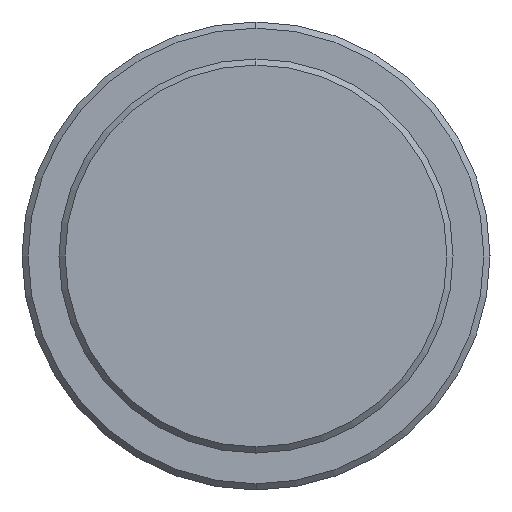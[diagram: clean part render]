
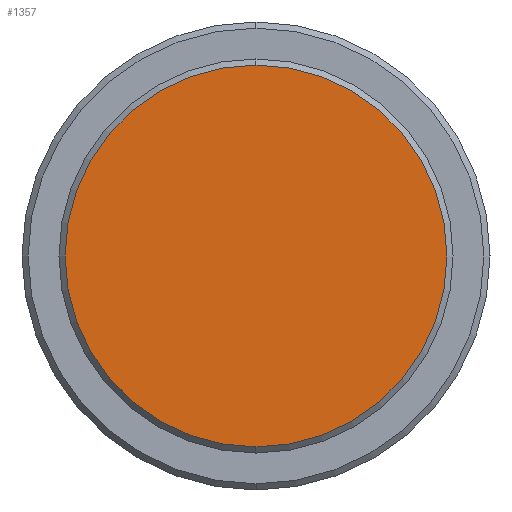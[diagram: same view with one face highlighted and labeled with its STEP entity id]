
A CAD part, left-side view. The second image highlights one B-rep face of the part: STEP entity #1357.
In plain terms, the highlighted planar face has unit normal (-1, 0, 0).
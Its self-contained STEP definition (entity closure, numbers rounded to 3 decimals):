
#16 = AXIS2_PLACEMENT_3D ( 'NONE', #654, #526, #1437 ) ;
#46 = CARTESIAN_POINT ( 'NONE',  ( -113.326, 0., 15.5 ) ) ;
#334 = AXIS2_PLACEMENT_3D ( 'NONE', #559, #554, #426 ) ;
#426 = DIRECTION ( 'NONE',  ( 0., 0., -1. ) ) ;
#476 = ORIENTED_EDGE ( 'NONE', *, *, #764, .F. ) ;
#526 = DIRECTION ( 'NONE',  ( 1., 0., 0. ) ) ;
#532 = CARTESIAN_POINT ( 'NONE',  ( -113.326, 0., 0. ) ) ;
#541 = DIRECTION ( 'NONE',  ( 0., 0., 1. ) ) ;
#553 = AXIS2_PLACEMENT_3D ( 'NONE', #532, #1560, #541 ) ;
#554 = DIRECTION ( 'NONE',  ( 1., 0., 0. ) ) ;
#559 = CARTESIAN_POINT ( 'NONE',  ( -113.326, 0., 0. ) ) ;
#652 = CIRCLE ( 'NONE', #334, 15.5 ) ;
#654 = CARTESIAN_POINT ( 'NONE',  ( -113.326, 0., 0. ) ) ;
#724 = EDGE_CURVE ( 'NONE', #1321, #965, #942, .T. ) ;
#764 = EDGE_CURVE ( 'NONE', #965, #1321, #652, .T. ) ;
#942 = CIRCLE ( 'NONE', #16, 15.5 ) ;
#965 = VERTEX_POINT ( 'NONE', #46 ) ;
#966 = ORIENTED_EDGE ( 'NONE', *, *, #724, .F. ) ;
#1028 = CARTESIAN_POINT ( 'NONE',  ( -113.326, 0., -15.5 ) ) ;
#1056 = PLANE ( 'NONE',  #553 ) ;
#1078 = FACE_OUTER_BOUND ( 'NONE', #1134, .T. ) ;
#1134 = EDGE_LOOP ( 'NONE', ( #966, #476 ) ) ;
#1321 = VERTEX_POINT ( 'NONE', #1028 ) ;
#1357 = ADVANCED_FACE ( 'NONE', ( #1078 ), #1056, .T. ) ;
#1437 = DIRECTION ( 'NONE',  ( 0., 0., -1. ) ) ;
#1560 = DIRECTION ( 'NONE',  ( -1., 0., 0. ) ) ;
